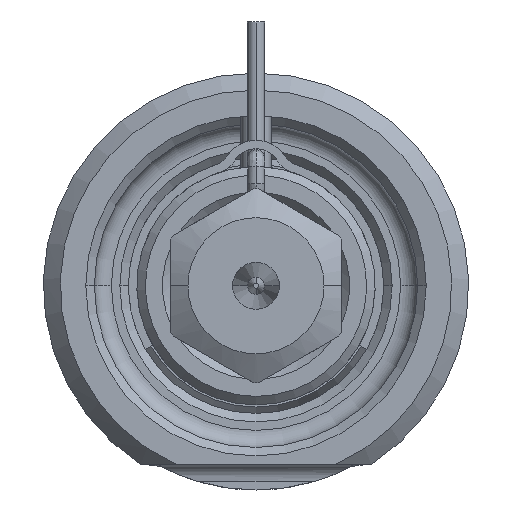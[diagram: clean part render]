
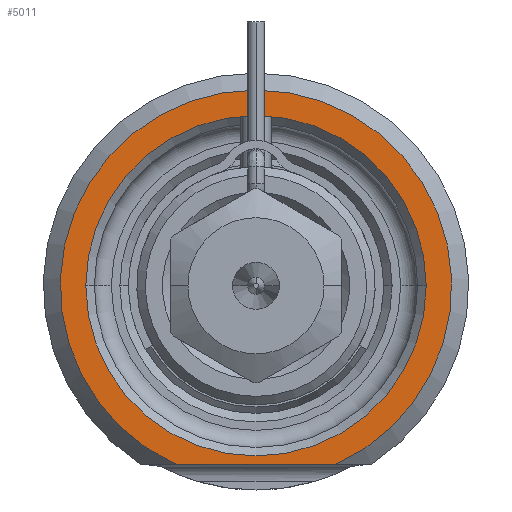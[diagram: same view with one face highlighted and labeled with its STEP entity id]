
A CAD part, front view. The second image highlights one B-rep face of the part: STEP entity #5011.
In plain terms, the highlighted planar face has unit normal (0, -1, 0).
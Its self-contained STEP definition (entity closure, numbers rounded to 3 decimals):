
#1201=CARTESIAN_POINT('',(0.,0.,0.));
#1202=DIRECTION('',(0.,-1.,0.));
#1203=DIRECTION('',(0.408,0.,-0.913));
#1204=AXIS2_PLACEMENT_3D('',#1201,#1202,#1203);
#1225=DIRECTION('',(1.,0.,0.));
#1226=VECTOR('',#1225,9.381);
#1227=CARTESIAN_POINT('',(-4.69,0.,-10.5));
#1228=LINE('',#1227,#1226);
#1229=CARTESIAN_POINT('',(0.,0.,0.));
#1230=DIRECTION('',(0.,1.,0.));
#1231=DIRECTION('',(-1.,0.,0.));
#1232=AXIS2_PLACEMENT_3D('',#1229,#1230,#1231);
#1234=CARTESIAN_POINT('',(0.,0.,0.));
#1235=DIRECTION('',(0.,1.,0.));
#1236=DIRECTION('',(1.,0.,0.));
#1237=AXIS2_PLACEMENT_3D('',#1234,#1235,#1236);
#3283=CARTESIAN_POINT('',(-10.,0.,0.));
#3284=CARTESIAN_POINT('',(10.,0.,0.));
#3285=VERTEX_POINT('',#3283);
#3286=VERTEX_POINT('',#3284);
#3327=CARTESIAN_POINT('',(-4.69,0.,-10.5));
#3328=CARTESIAN_POINT('',(4.69,0.,-10.5));
#3329=VERTEX_POINT('',#3327);
#3330=VERTEX_POINT('',#3328);
#4996=CARTESIAN_POINT('',(0.,0.,0.));
#4997=DIRECTION('',(0.,-1.,0.));
#4998=DIRECTION('',(1.,0.,0.));
#4999=AXIS2_PLACEMENT_3D('',#4996,#4997,#4998);
#5000=PLANE('',#4999);
#5001=ORIENTED_EDGE('',*,*,#4931,.F.);
#5002=ORIENTED_EDGE('',*,*,#4988,.F.);
#5003=EDGE_LOOP('',(#5001,#5002));
#5004=FACE_OUTER_BOUND('',#5003,.F.);
#5006=ORIENTED_EDGE('',*,*,#5005,.F.);
#5008=ORIENTED_EDGE('',*,*,#5007,.F.);
#5009=EDGE_LOOP('',(#5006,#5008));
#5010=FACE_BOUND('',#5009,.F.);
#5011=ADVANCED_FACE('',(#5004,#5010),#5000,.T.);
#1205=CIRCLE('',#1204,11.5);
#1233=CIRCLE('',#1232,10.);
#1238=CIRCLE('',#1237,10.);
#4931=EDGE_CURVE('',#3329,#3330,#1228,.T.);
#4988=EDGE_CURVE('',#3330,#3329,#1205,.T.);
#5005=EDGE_CURVE('',#3285,#3286,#1233,.T.);
#5007=EDGE_CURVE('',#3286,#3285,#1238,.T.);
